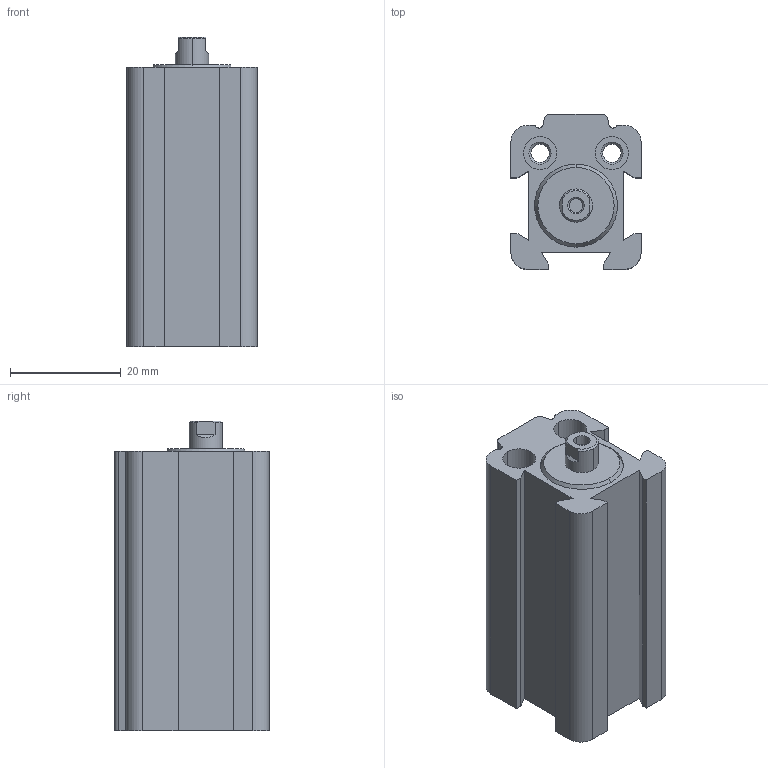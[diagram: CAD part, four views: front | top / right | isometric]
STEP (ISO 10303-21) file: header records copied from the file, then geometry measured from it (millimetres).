
FILE_DESCRIPTION((''),'2;1');
FILE_NAME('0822010603_ASM','2015-07-01T',('vol1hc'),(''),'PRO/ENGINEER BY PARAMETRIC TECHNOLOGY CORPORATION, 2012421','PRO/ENGINEER BY PARAMETRIC TECHNOLOGY CORPORATION, 2012421','');
FILE_SCHEMA(('CONFIG_CONTROL_DESIGN','SHAPE_APPEARANCE_LAYERS_GROUPS'));
Length unit declared in the file: millimetre
Products named in the file (3): 0822010603-A; 0822010603-B; 0822010603_ASM
Assembly tree (2 placements, depth 2):
  0822010603_ASM
    0822010603-A
    0822010603-B
Bounding box: 23.5 x 28 x 56 mm (x, y, z)
Volume: 23079.8 mm3; surface area: 12315.4 mm2
Topology: 2 solids, 2 shells, 109 faces, 258 edges, 166 vertices
Faces by surface type: plane 47, cylinder 44, cone 18
Entity records: 3290 total; most frequent: DIRECTION 586, CARTESIAN_POINT 570, ORIENTED_EDGE 516, EDGE_CURVE 258, AXIS2_PLACEMENT_3D 220, VERTEX_POINT 166, VECTOR 146, LINE 146
